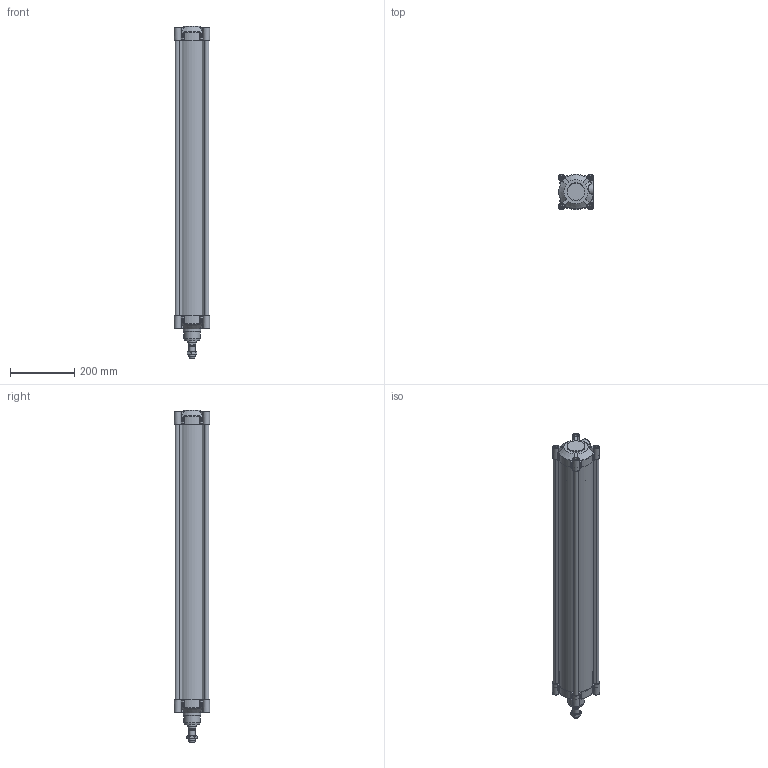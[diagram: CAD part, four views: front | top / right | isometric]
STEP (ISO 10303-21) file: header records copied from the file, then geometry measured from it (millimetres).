
FILE_DESCRIPTION(/* description */ ('Unknown'),/* implementation_level */ '2;1');
FILE_NAME(/* name */ 'HIF 100_800',/* time_stamp */ '2024-08-13T09:42:26+02:00',/* author */ ('Unknown'),/* organization */ ('Unknown'),/* preprocessor_version */ 'ST-DEVELOPER v16.7',/* originating_system */ 'Solid Edge',/* authorisation */ 'Unknown');
FILE_SCHEMA (('AUTOMOTIVE_DESIGN {1 0 10303 214 3 1 1}'));
Length unit declared in the file: millimetre
Products named in the file (6): HIF 100_800; Kit_2; Kit_1; Profilrohr 100_800; Kolbenstange 100_750; Mutter
Assembly tree (5 placements, depth 2):
  HIF 100_800
    Kit_2
    Kit_1
    Profilrohr 100_800
    Kolbenstange 100_750
    Mutter
Bounding box: 110 x 110 x 1033 mm (x, y, z)
Volume: 2972299.6 mm3; surface area: 1160790.2 mm2
Topology: 5 solids, 19 shells, 1299 faces, 3192 edges, 1962 vertices
Faces by surface type: cylinder 461, plane 399, cone 136, sphere 108, torus 103, bspline 92
Full cylindrical faces by diameter (mm): 8.376 x16, 10 x8, 10.3 x8, 12 x3, 16 x8, 16.3 x8, 17 x2, 17.5 x1, 18.376 x1, 18.62 x2, 18.631 x2, 20 x1, 24.5 x1, 25 x3, 25.6 x1, 25.8 x1, 25.962 x1, 30 x1, 35 x2, 52 x1, 55 x2, 100 x2
Entity records: 49320 total; most frequent: CARTESIAN_POINT 12638, ORIENTED_EDGE 6130, DIRECTION 5640, EDGE_CURVE 3065, AXIS2_PLACEMENT_3D 2289, VERTEX_POINT 1945, FACE_BOUND 1458, EDGE_LOOP 1450
